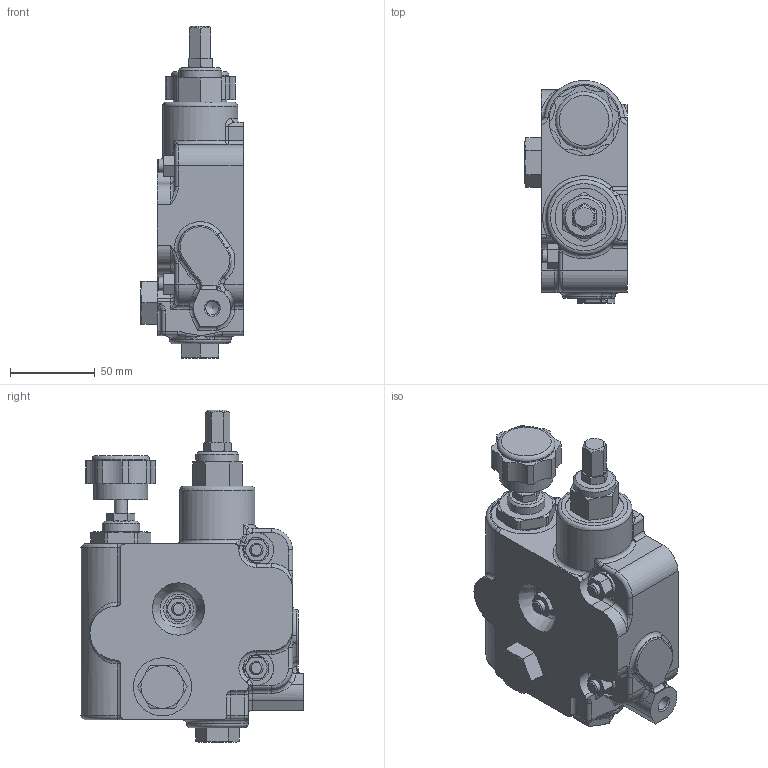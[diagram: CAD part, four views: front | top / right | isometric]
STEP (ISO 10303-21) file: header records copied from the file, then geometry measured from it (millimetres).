
FILE_DESCRIPTION((''),'2;1');
FILE_NAME('C:\Vault\Workspace\z_ShellModels\SVIF15M_Shell.stp','2012-02-09T10:40:44',('PetersW'),(''),'Autodesk Inventor 2011','Autodesk Inventor 2011','');
FILE_SCHEMA(('AUTOMOTIVE_DESIGN { 1 0 10303 214 1 1 1 1 }'));
Length unit declared in the file: inch
Products named in the file (3): Assembly7; SVIF15M-Shell; 200400030
Assembly tree (2 placements, depth 2):
  Assembly7
    SVIF15M-Shell
    200400030
Bounding box: 60.45 x 131.68 x 196.39 mm (x, y, z)
Volume: 678210.8 mm3; surface area: 84685.8 mm2
Topology: 2 solids, 9 shells, 544 faces, 1280 edges, 761 vertices
Faces by surface type: plane 176, cone 146, cylinder 140, torus 41, bspline 31, sphere 10
Full cylindrical faces by diameter (mm): 7.798 x1, 7.925 x3, 7.938 x2, 8.331 x3, 8.382 x2, 8.738 x1, 16.764 x1, 17.066 x1, 17.399 x1, 17.501 x1, 19.634 x1, 19.685 x1, 19.842 x1, 20.472 x3, 20.625 x3, 22.225 x2, 24.209 x1, 24.917 x1, 25.4 x1, 30.429 x1, 31.75 x2, 34.036 x1, 34.392 x3, 36.5 x1, 41.529 x1, 44.45 x1
Entity records: 16286 total; most frequent: CARTESIAN_POINT 4367, DIRECTION 2400, ORIENTED_EDGE 2302, EDGE_CURVE 1151, AXIS2_PLACEMENT_3D 1038, VERTEX_POINT 728, EDGE_LOOP 659, FACE_OUTER_BOUND 543
